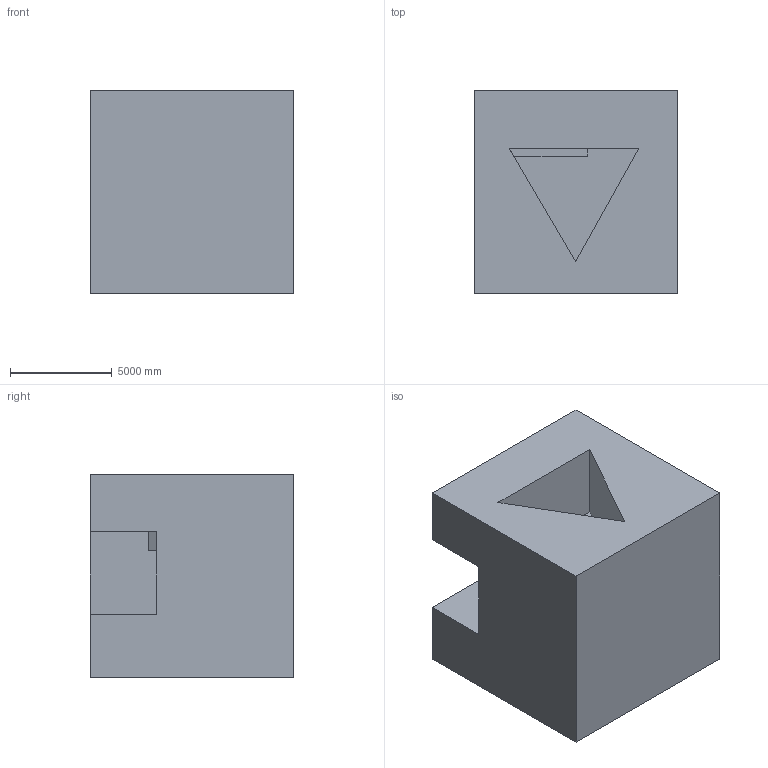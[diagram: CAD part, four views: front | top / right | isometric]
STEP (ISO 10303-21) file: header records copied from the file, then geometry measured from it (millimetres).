
FILE_DESCRIPTION (( 'STEP AP203' ), '1' );
FILE_NAME ('8.STEP', '2022-09-01T11:35:19', ( 'user' ), ( '' ), 'SwSTEP 2.0', 'SolidWorks 2021', '' );
FILE_SCHEMA (( 'CONFIG_CONTROL_DESIGN' ));
Length unit declared in the file: centimetre
Products named in the file (1): 8
Bounding box: 10000 x 10000 x 10000 mm (x, y, z)
Volume: 861205801228.5 mm3; surface area: 697451363.3 mm2
Topology: 1 solids, 1 shells, 14 faces, 39 edges, 26 vertices
Faces by surface type: plane 14
Entity records: 524 total; most frequent: CARTESIAN_POINT 80, ORIENTED_EDGE 78, DIRECTION 69, VECTOR 39, LINE 39, EDGE_CURVE 39, VERTEX_POINT 26, AXIS2_PLACEMENT_3D 15
